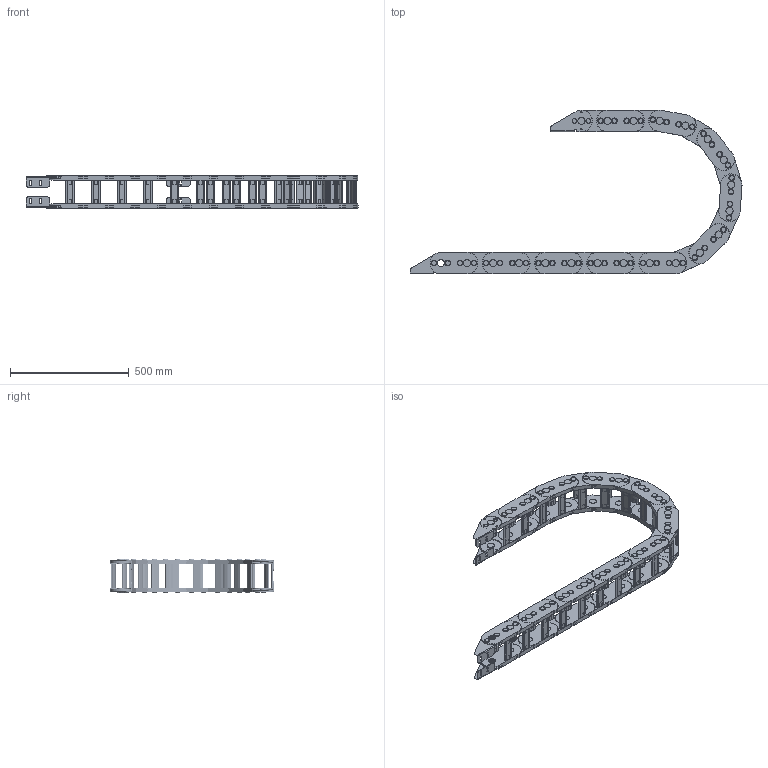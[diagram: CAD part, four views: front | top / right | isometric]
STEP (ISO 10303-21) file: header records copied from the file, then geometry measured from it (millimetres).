
FILE_DESCRIPTION((''),'2;1');
FILE_NAME('GD-65-R300_ASM','2022-07-29T19:14:59',('admin'),(''),'CREO PARAMETRIC BY PTC INC, 2021164','CREO PARAMETRIC BY PTC INC, 2021164','');
FILE_SCHEMA(('CONFIG_CONTROL_DESIGN','GEOMETRIC_VALIDATION_PROPERTIES_MIM'));
Length unit declared in the file: millimetre
Products named in the file (5): 65-R150; 65-R150-1; TLT-1; TLT-2; GD-65-R300_ASM
Assembly tree (22 placements, depth 2):
  GD-65-R300_ASM
    65-R150  x10
    65-R150-1  x10
    TLT-1
    TLT-2
Bounding box: 1398.5 x 689.28 x 140.4 mm (x, y, z)
Volume: 8812081.6 mm3; surface area: 2664427 mm2
Topology: 84 solids, 84 shells, 2572 faces, 6726 edges, 4570 vertices
Faces by surface type: cylinder 1228, plane 1144, cone 200
Entity records: 16215 total; most frequent: DIRECTION 2490, CARTESIAN_POINT 2392, ORIENTED_EDGE 2220, EDGE_CURVE 1110, AXIS2_PLACEMENT_3D 953, VERTEX_POINT 754, PRESENTATION_STYLE_ASSIGNMENT 634, STYLED_ITEM 633
